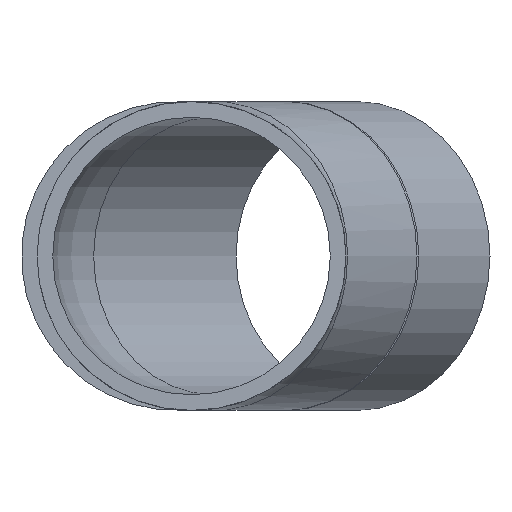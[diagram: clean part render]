
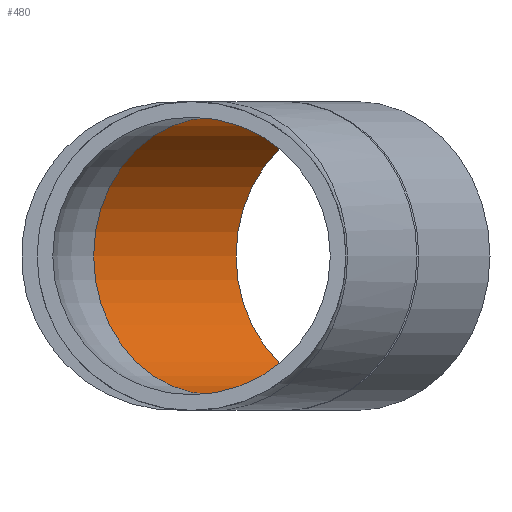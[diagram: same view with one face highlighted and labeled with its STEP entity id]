
A CAD part, front view. The second image highlights one B-rep face of the part: STEP entity #480.
In plain terms, the highlighted cylindrical face has radius 33.7 mm (diameter 67.4 mm), a full revolution.
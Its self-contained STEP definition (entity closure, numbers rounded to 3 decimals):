
#77=CYLINDRICAL_SURFACE($,#535,33.7);
#92=FACE_BOUND($,#162,.T.);
#120=FACE_OUTER_BOUND($,#161,.T.);
#161=EDGE_LOOP($,(#416));
#162=EDGE_LOOP($,(#417));
#187=CIRCLE($,#530,33.7);
#190=CIRCLE($,#536,33.7);
#234=VERTEX_POINT($,#1161);
#237=VERTEX_POINT($,#1170);
#295=EDGE_CURVE($,#234,#234,#187,.T.);
#298=EDGE_CURVE($,#237,#237,#190,.T.);
#416=ORIENTED_EDGE($,*,*,#298,.F.);
#417=ORIENTED_EDGE($,*,*,#295,.T.);
#480=ADVANCED_FACE($,(#120,#92),#77,.F.);
#530=AXIS2_PLACEMENT_3D($,#1162,#634,#635);
#535=AXIS2_PLACEMENT_3D($,#1169,#644,#645);
#536=AXIS2_PLACEMENT_3D($,#1171,#646,#647);
#634=DIRECTION('center_axis',(-0.5,-0.866,0.));
#635=DIRECTION('ref_axis',(0.866,-0.5,0.));
#644=DIRECTION('center_axis',(-0.5,-0.866,0.));
#645=DIRECTION('ref_axis',(0.866,-0.5,0.));
#646=DIRECTION('center_axis',(-0.5,-0.866,0.));
#647=DIRECTION('ref_axis',(0.866,-0.5,0.));
#1161=CARTESIAN_POINT('',(-23.759,76.248,0.));
#1162=CARTESIAN_POINT('Origin',(5.426,59.398,0.));
#1169=CARTESIAN_POINT('Origin',(22.713,89.34,0.));
#1170=CARTESIAN_POINT('',(69.185,102.432,0.));
#1171=CARTESIAN_POINT('Origin',(40.,119.282,0.));
